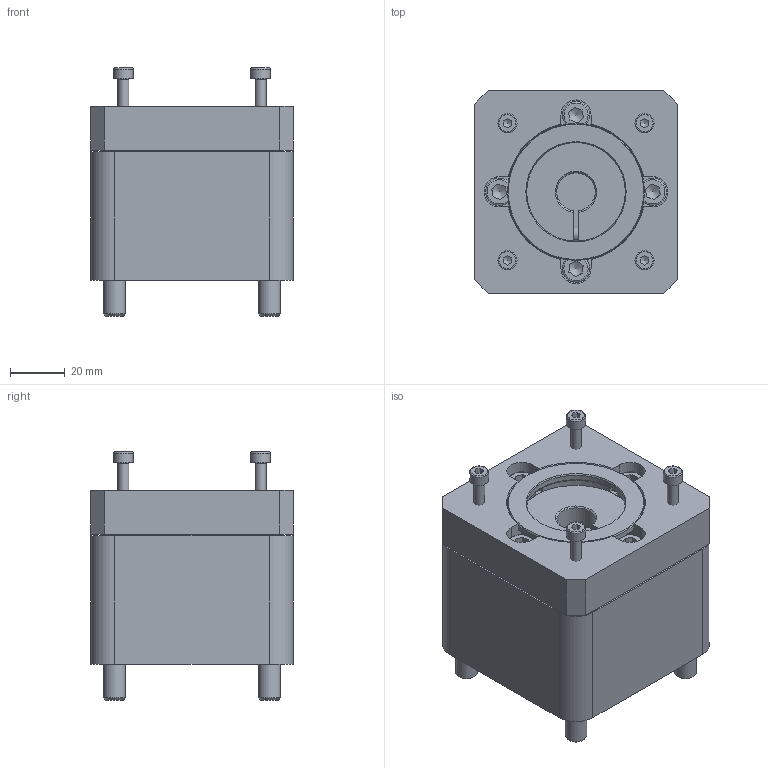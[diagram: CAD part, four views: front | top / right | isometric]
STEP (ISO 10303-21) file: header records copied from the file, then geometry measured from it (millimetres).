
FILE_DESCRIPTION(/* description */ ('EAMK-A O - Coupling housing'),/* implementation_level */ '2;1');
FILE_NAME(/* name */ 'C:\ホームページ用データ\\X2\307E305A30533053306B\X0\\J08595.stp',/* time_stamp */ '2015-04-08T14:33:52+09:00',/* author */ ('Cadenas PARTsolutions'),/* organization */ (''),/* preprocessor_version */ 'ST-DEVELOPER v15.2',/* originating_system */ 'Autodesk Inventor 2014',/* authorisation */ '');
FILE_SCHEMA (('AUTOMOTIVE_DESIGN { 1 0 10303 214 3 1 1 }'));
Length unit declared in the file: millimetre
Products named in the file (9): 552160_EAMK_A_D60_64_L51_1O_; DIN_912___M8x30_F_; 552160_EAMK_A_D60_64B; 1455671_EAMC_42_50_12_14; J08127; J08128; コピー版 JIS B 1176 - M6 x 15; コピー版 JIS B 1176 - M4 x 18; J08595
Bounding box: 74 x 74 x 90.5 mm (x, y, z)
Volume: 268412.5 mm3; surface area: 77944.9 mm2
Topology: 16 solids, 16 shells, 404 faces, 918 edges, 577 vertices
Faces by surface type: plane 207, cone 98, cylinder 80, torus 19
Full cylindrical faces by diameter (mm): 3.242 x4, 4 x4, 4.917 x4, 5 x4, 6 x4, 6.6 x4, 7 x4, 8 x4, 8.5 x2, 9 x4, 10 x4, 13 x4, 14 x4, 36 x1, 40 x2, 42 x1, 47 x1, 48 x1, 50 x1, 60 x1, 64 x2
Entity records: 6457 total; most frequent: CARTESIAN_POINT 1263, DIRECTION 1090, ORIENTED_EDGE 892, EDGE_CURVE 446, AXIS2_PLACEMENT_3D 444, EDGE_LOOP 363, VERTEX_POINT 329, ADVANCED_FACE 230
